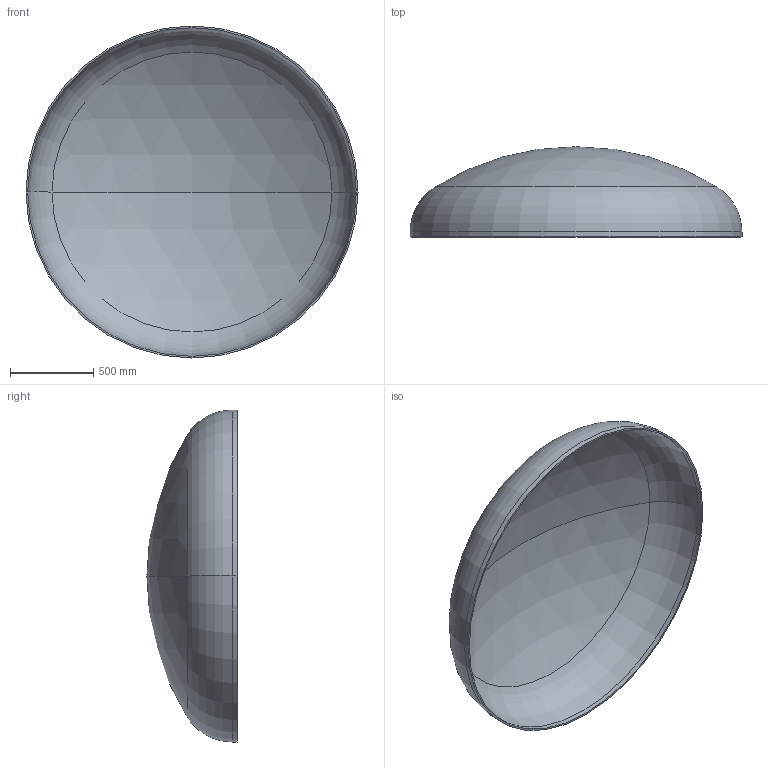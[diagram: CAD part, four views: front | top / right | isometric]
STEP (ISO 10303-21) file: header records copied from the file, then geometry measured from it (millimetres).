
FILE_DESCRIPTION (( 'STEP AP203' ), '1' );
FILE_NAME ('DIN 28013 Korbbogenform_-_Boden DIN 28013 - 2000 x 30 - I - s=10.step', '2016-07-01T13:35:27', ( '' ), ( '' ), 'SwSTEP 2.0', 'SolidWorks 2013', '' );
FILE_SCHEMA (( 'CONFIG_CONTROL_DESIGN' ));
Length unit declared in the file: millimetre
Products named in the file (1): DIN 28013 Korbbogenform_-_Boden DIN 28013 - 2000 x 30 - I - s=10
Bounding box: 2000 x 543.78 x 2000 mm (x, y, z)
Volume: 45155690.1 mm3; surface area: 9093861.6 mm2
Topology: 1 solids, 1 shells, 13 faces, 24 edges, 14 vertices
Faces by surface type: torus 4, cylinder 4, sphere 4, plane 1
Entity records: 407 total; most frequent: DIRECTION 72, CARTESIAN_POINT 52, ORIENTED_EDGE 48, AXIS2_PLACEMENT_3D 34, EDGE_CURVE 24, CIRCLE 20, VERTEX_POINT 14, EDGE_LOOP 14
